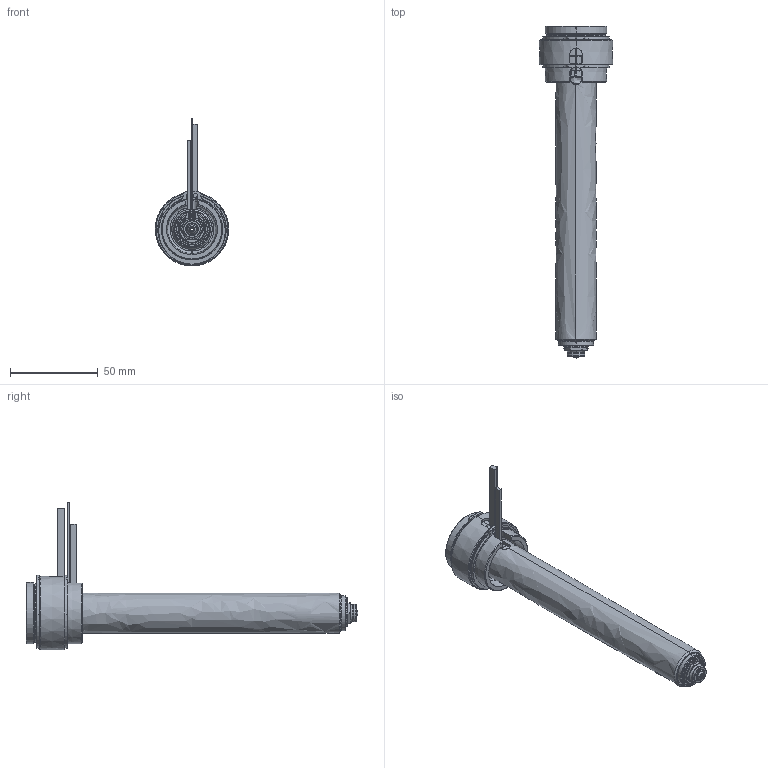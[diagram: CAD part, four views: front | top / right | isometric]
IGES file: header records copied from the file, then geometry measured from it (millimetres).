
Start section: SolidWorks IGES file using analytic representation for surfaces
Global section: file name: C:\Documents and Settings\ws-20\Desktop\TEM\UGER3554-S-A-0 [Øb-1.70  ØC-7.0].IGS; native system: SolidWorks 2012; preprocessor: SolidWorks 2012; author: ws-20; date: 120410.101536; units: millimetre
Bounding box: 42 x 189.4 x 84.4 mm (x, y, z)
Surface area: 53251.3 mm2 (no closed solid volume)
Topology: 0 solids, 0 shells, 205 faces, 3588 edges, 3588 vertices
Faces by surface type: revolution 131, bspline 74
